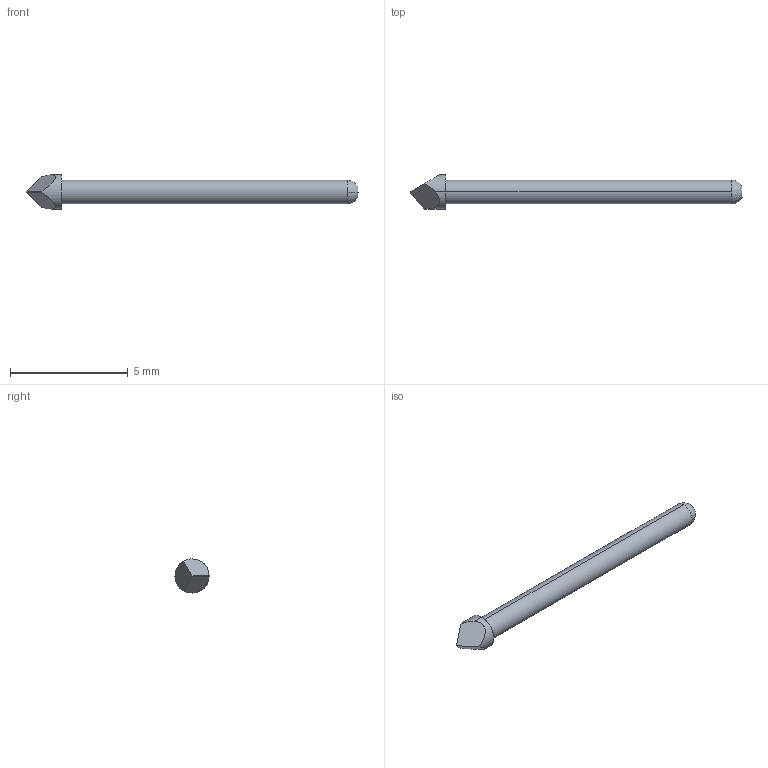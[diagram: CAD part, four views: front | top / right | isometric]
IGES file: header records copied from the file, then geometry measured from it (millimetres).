
Start section: SolidWorks IGES file using analytic representation for surfaces
Global section: file name: Z:\probe solid model mockups\Solidworks models\IGES Files\HPA-1\HPA-1T Full.IGS; native system: SolidWorks 2006 by SolidWorks Corporation; preprocessor: SolidWorks 2006 by SolidWorks Corporation; author: tsakatani; date: 071220.112552; units: inch
Bounding box: 14.1 x 1.45 x 1.45 mm (x, y, z)
Surface area: 46.6 mm2 (no closed solid volume)
Topology: 0 solids, 0 shells, 11 faces, 128 edges, 128 vertices
Faces by surface type: revolution 6, bspline 5
